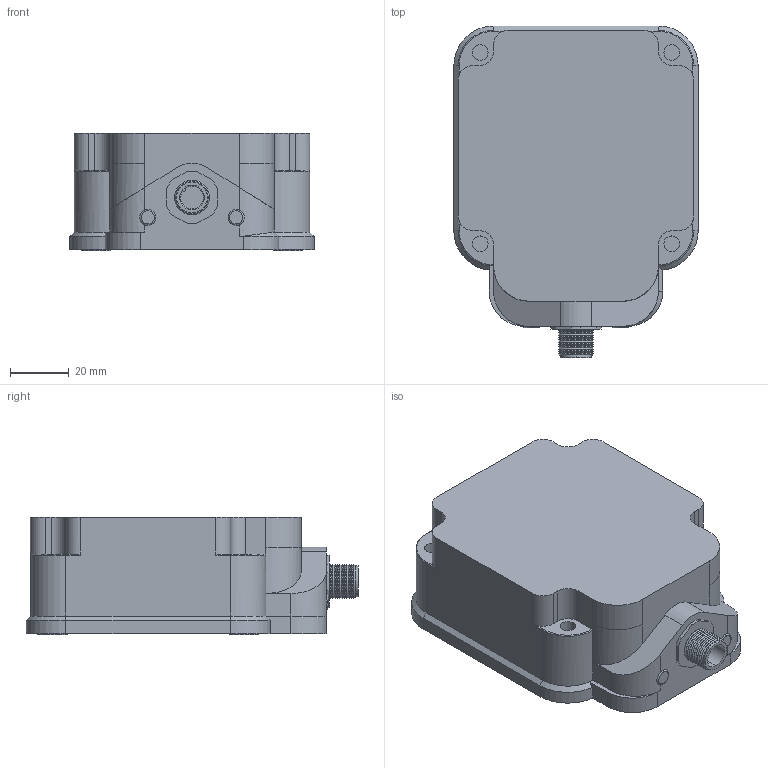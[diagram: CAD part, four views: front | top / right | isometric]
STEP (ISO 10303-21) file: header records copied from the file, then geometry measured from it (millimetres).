
FILE_DESCRIPTION (( 'STEP AP203' ), '1' );
FILE_NAME ('TNSLR-Q80WD-H1.step', '2016-06-08T21:00:19', ( 'Turck User' ), ( '' ), 'SwSTEP 2.0', 'SolidWorks 2015', '' );
FILE_SCHEMA (( 'CONFIG_CONTROL_DESIGN' ));
Length unit declared in the file: millimetre
Products named in the file (2): TNSLR-Q80WD-H1
Bounding box: 83 x 112.76 x 40 mm (x, y, z)
Volume: 279440.7 mm3; surface area: 31750.6 mm2
Topology: 3 solids, 3 shells, 204 faces, 468 edges, 286 vertices
Faces by surface type: cylinder 77, plane 67, cone 49, torus 11
Entity records: 5950 total; most frequent: DIRECTION 1078, CARTESIAN_POINT 1051, ORIENTED_EDGE 936, EDGE_CURVE 468, AXIS2_PLACEMENT_3D 421, VERTEX_POINT 286, LINE 236, VECTOR 236
